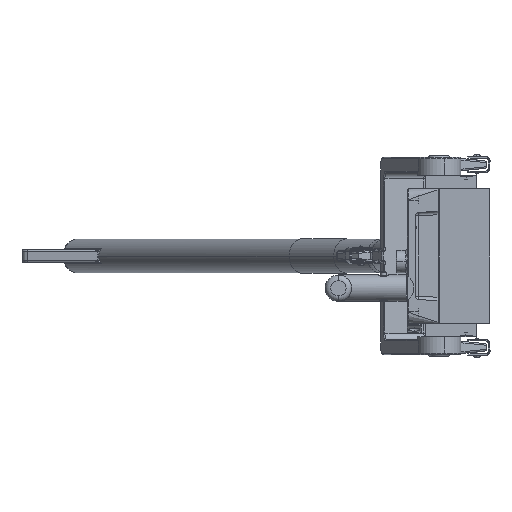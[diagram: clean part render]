
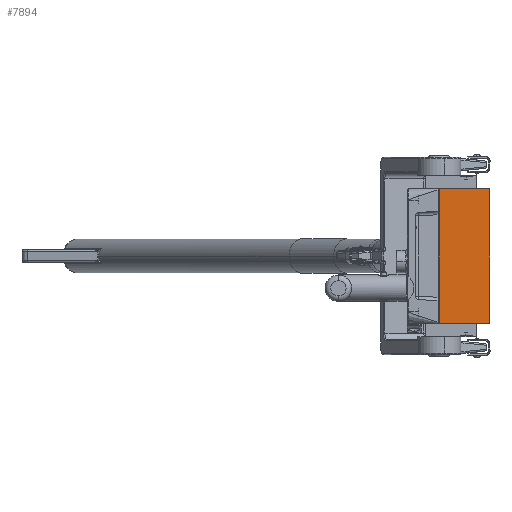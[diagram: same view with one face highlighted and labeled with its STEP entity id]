
A CAD part, left-side view. The second image highlights one B-rep face of the part: STEP entity #7894.
In plain terms, the highlighted planar face has unit normal (-1, 0, 0).
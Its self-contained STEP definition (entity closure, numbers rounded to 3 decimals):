
#206 = CARTESIAN_POINT ( 'NONE',  ( 0., 0., 0.1 ) ) ;
#1117 = PLANE ( 'NONE',  #1811 ) ;
#1811 = AXIS2_PLACEMENT_3D ( 'NONE', #8432, #4862, #30933 ) ;
#2124 = DIRECTION ( 'NONE',  ( 0., 0., -1. ) ) ;
#3058 = VERTEX_POINT ( 'NONE', #19887 ) ;
#4146 = DIRECTION ( 'NONE',  ( 0., -1., 0. ) ) ;
#4862 = DIRECTION ( 'NONE',  ( 1., 0., 0. ) ) ;
#7894 = ADVANCED_FACE ( 'NONE', ( #25555 ), #1117, .F. ) ;
#8432 = CARTESIAN_POINT ( 'NONE',  ( 0., 0., 0. ) ) ;
#13276 = LINE ( 'NONE', #206, #23186 ) ;
#14812 = DIRECTION ( 'NONE',  ( 0., 1., 0. ) ) ;
#14815 = CARTESIAN_POINT ( 'NONE',  ( 0., -0.1, 0.1 ) ) ;
#15754 = VECTOR ( 'NONE', #2124, 1000. ) ;
#16913 = LINE ( 'NONE', #43057, #15754 ) ;
#18534 = EDGE_CURVE ( 'NONE', #33364, #3058, #13276, .T. ) ;
#19887 = CARTESIAN_POINT ( 'NONE',  ( 0., -45., 0.1 ) ) ;
#23186 = VECTOR ( 'NONE', #4146, 1000. ) ;
#24847 = VECTOR ( 'NONE', #14812, 1000. ) ;
#25555 = FACE_OUTER_BOUND ( 'NONE', #46729, .T. ) ;
#26345 = ORIENTED_EDGE ( 'NONE', *, *, #18534, .T. ) ;
#26502 = VERTEX_POINT ( 'NONE', #31277 ) ;
#27393 = ORIENTED_EDGE ( 'NONE', *, *, #39946, .T. ) ;
#29307 = VERTEX_POINT ( 'NONE', #30452 ) ;
#30452 = CARTESIAN_POINT ( 'NONE',  ( 0., -0.1, 118.9 ) ) ;
#30933 = DIRECTION ( 'NONE',  ( 0., 0., -1. ) ) ;
#31277 = CARTESIAN_POINT ( 'NONE',  ( 0., -45., 118.9 ) ) ;
#32152 = DIRECTION ( 'NONE',  ( 0., 0., -1. ) ) ;
#33364 = VERTEX_POINT ( 'NONE', #14815 ) ;
#33430 = CARTESIAN_POINT ( 'NONE',  ( 0., 0., 118.9 ) ) ;
#36473 = ORIENTED_EDGE ( 'NONE', *, *, #47073, .T. ) ;
#39946 = EDGE_CURVE ( 'NONE', #26502, #29307, #43530, .T. ) ;
#40452 = VECTOR ( 'NONE', #32152, 1000. ) ;
#43057 = CARTESIAN_POINT ( 'NONE',  ( 0., -0.1, 0. ) ) ;
#43530 = LINE ( 'NONE', #33430, #24847 ) ;
#43708 = ORIENTED_EDGE ( 'NONE', *, *, #43988, .F. ) ;
#43951 = LINE ( 'NONE', #47008, #40452 ) ;
#43988 = EDGE_CURVE ( 'NONE', #26502, #3058, #43951, .T. ) ;
#46729 = EDGE_LOOP ( 'NONE', ( #26345, #43708, #27393, #36473 ) ) ;
#47008 = CARTESIAN_POINT ( 'NONE',  ( 0., -45., 118.9 ) ) ;
#47073 = EDGE_CURVE ( 'NONE', #29307, #33364, #16913, .T. ) ;
